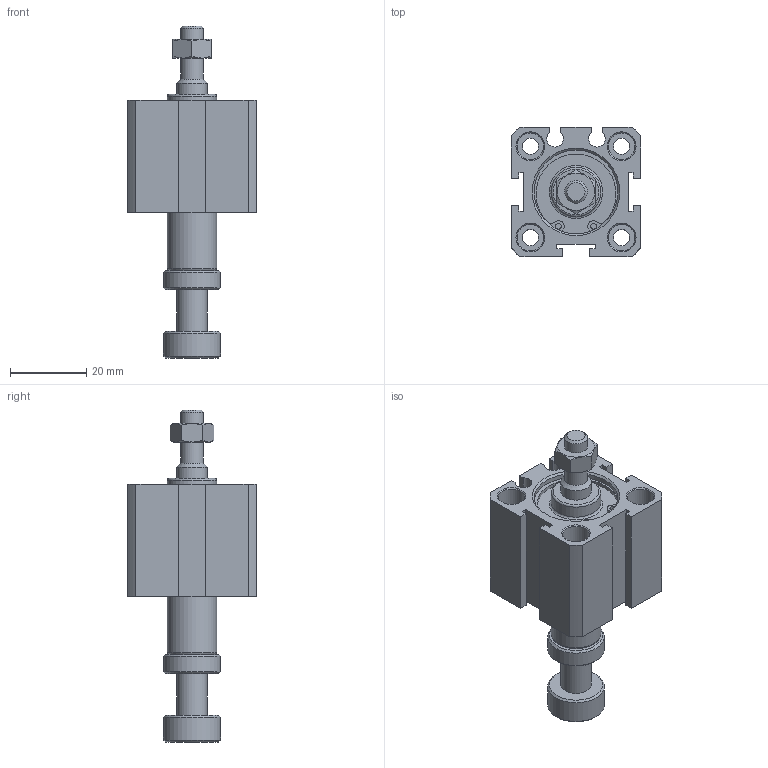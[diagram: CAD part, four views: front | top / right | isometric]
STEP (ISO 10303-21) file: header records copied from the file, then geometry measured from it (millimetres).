
FILE_DESCRIPTION((''),'2;1');
FILE_NAME('I:\3D電子目錄\氣缸\JDAR\JDAR-B\JDAR20-B\JDAR20x10-B.stp','2007-03-14T13:15:33',('662F206'),(''),'Autodesk Inventor 11','Autodesk Inventor 11','');
FILE_SCHEMA(('AUTOMOTIVE_DESIGN { 1 0 10303 214 1 1 1 1 }'));
Length unit declared in the file: millimetre
Products named in the file (3): JDAR20-B; R 形環 23
Assembly tree (3 placements, depth 2):
  JDAR20-B
    JDAR20-B
    R 形環 23  x2
Bounding box: 34 x 34 x 87.3 mm (x, y, z)
Volume: 31862.6 mm3; surface area: 13537.1 mm2
Topology: 3 solids, 3 shells, 152 faces, 341 edges, 221 vertices
Faces by surface type: plane 74, cylinder 50, cone 20, bspline 6, torus 2
Full cylindrical faces by diameter (mm): 1.5 x6, 4.3 x4, 6 x2, 7 x8, 8 x2, 13 x2, 15 x2, 22 x4, 23.2 x2
Entity records: 3749 total; most frequent: CARTESIAN_POINT 742, DIRECTION 628, ORIENTED_EDGE 498, AXIS2_PLACEMENT_3D 251, EDGE_CURVE 249, EDGE_LOOP 234, VERTEX_POINT 195, FACE_OUTER_BOUND 140
